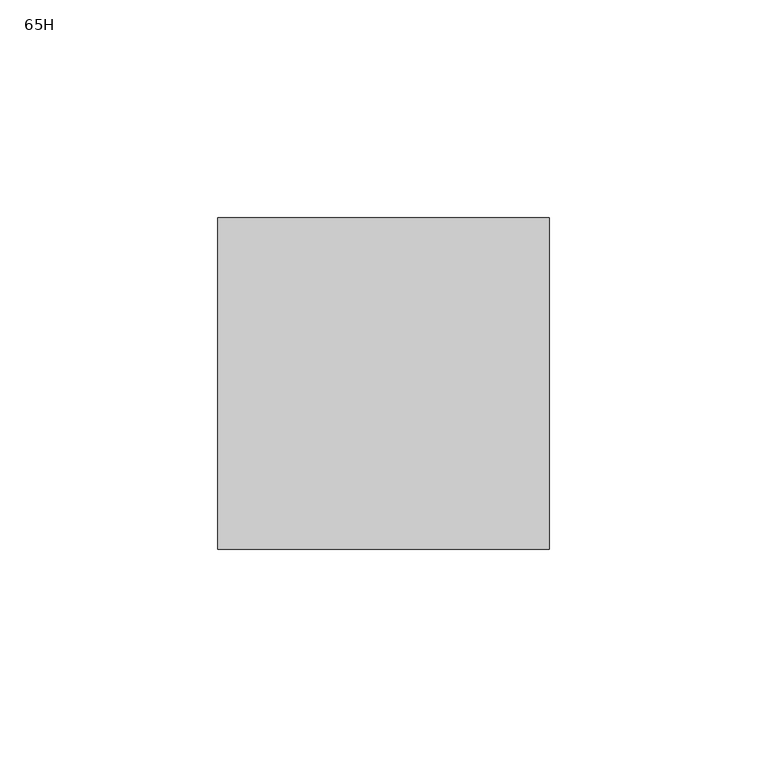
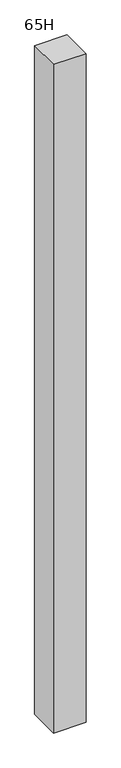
"""IFC4 building model written with IfcOpenShell, lengths in millimetres: furniture geometry, Steelcase - Montage - Junction - L Square - Same-Height : 65H."""

from ifc_helpers import new_model, si_unit, frame, origin, place, context, project, spatial, polyline, outline, extrude, source, transform, mapped, element, save


def furniture_65h_c9d4cf2e(model_context):
    return source(origin(), model_context, "Body", "SweptSolid", [
        extrude(outline(polyline([(533.4, -38.1000015), (457.2, -38.1000015), (457.2, 38.1000015), (533.4, 38.1000015), (533.4, -38.1000015)])), frame((0.0, 0.0, 4.064), z_axis=(0.0, 0.0, 1.0), x_axis=(1.0, 0.0, 0.0)), (0.0, 0.0, 1.0), 1656.461),
    ])


if __name__ == "__main__":
    model = new_model("IFC4")
    model_context = context("Model", 3, world=origin())
    ifc_project = project(units=[si_unit("LENGTHUNIT", "METRE", prefix="MILLI")], contexts=[model_context])
    site = spatial("IfcSite", under=ifc_project)
    building = spatial("IfcBuilding", under=site)
    placement = place(None, origin())
    furniture_65h_shape = furniture_65h_c9d4cf2e(model_context)
    element("IfcFurniture", 1, ObjectType="Steelcase - Montage - Junction - L Square - Same-Height : 65H", at=placement, inside=building, context=model_context, shape_type="MappedRepresentation", body=[
        mapped(furniture_65h_shape, transform((0.0, 0.0, 0.0), x_axis=(1.0, 0.0, 0.0), y_axis=(0.0, 1.0, 0.0), z_axis=(0.0, 0.0, 1.0))),
    ])
    save(model, "model.ifc")
